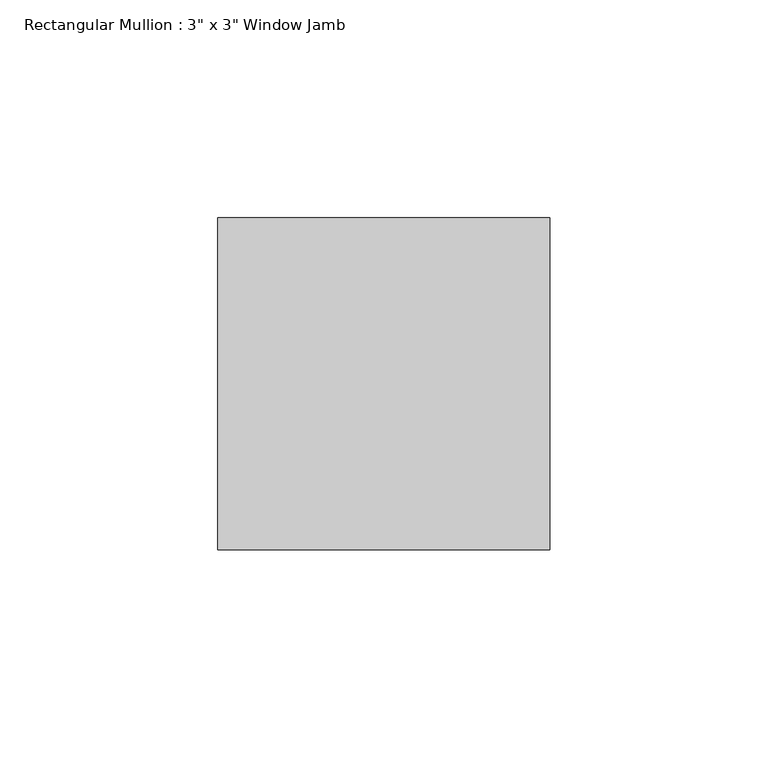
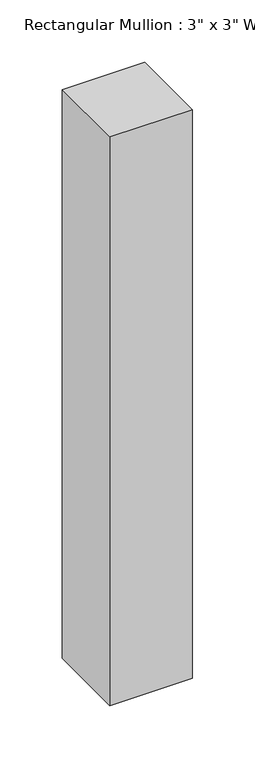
"""IFC4 building model written with IfcOpenShell, lengths in millimetres: member geometry."""

from ifc_helpers import new_model, si_unit, frame, origin, place, context, project, spatial, polyline, outline, extrude, source, transform, mapped, element, save


def member_d1b01063(model_context):
    return source(origin(), model_context, "Body", "SweptSolid", [
        extrude(outline(polyline([(0.0, 50.8), (0.0, -25.4), (-76.2, -25.4), (-76.2, 50.8), (0.0, 50.8)])), frame((0.0, 0.0, -556.26), z_axis=(0.0, 0.0, 1.0), x_axis=(1.0, 0.0, 0.0)), (0.0, 0.0, 1.0), 556.26),
    ])


if __name__ == "__main__":
    model = new_model("IFC4")
    model_context = context("Model", 3, world=origin())
    ifc_project = project(units=[si_unit("LENGTHUNIT", "METRE", prefix="MILLI")], contexts=[model_context])
    site = spatial("IfcSite", under=ifc_project)
    building = spatial("IfcBuilding", under=site)
    placement = place(None, origin())
    member_shape = member_d1b01063(model_context)
    element("IfcMember", 1, ObjectType="Rectangular Mullion : 3\" x 3\" Window Jamb", at=placement, inside=building, context=model_context, shape_type="MappedRepresentation", body=[
        mapped(member_shape, transform((0.0, 0.0, 0.0), x_axis=(1.0, 0.0, 0.0), y_axis=(0.0, 1.0, 0.0), z_axis=(0.0, 0.0, 1.0))),
    ])
    save(model, "model.ifc")
